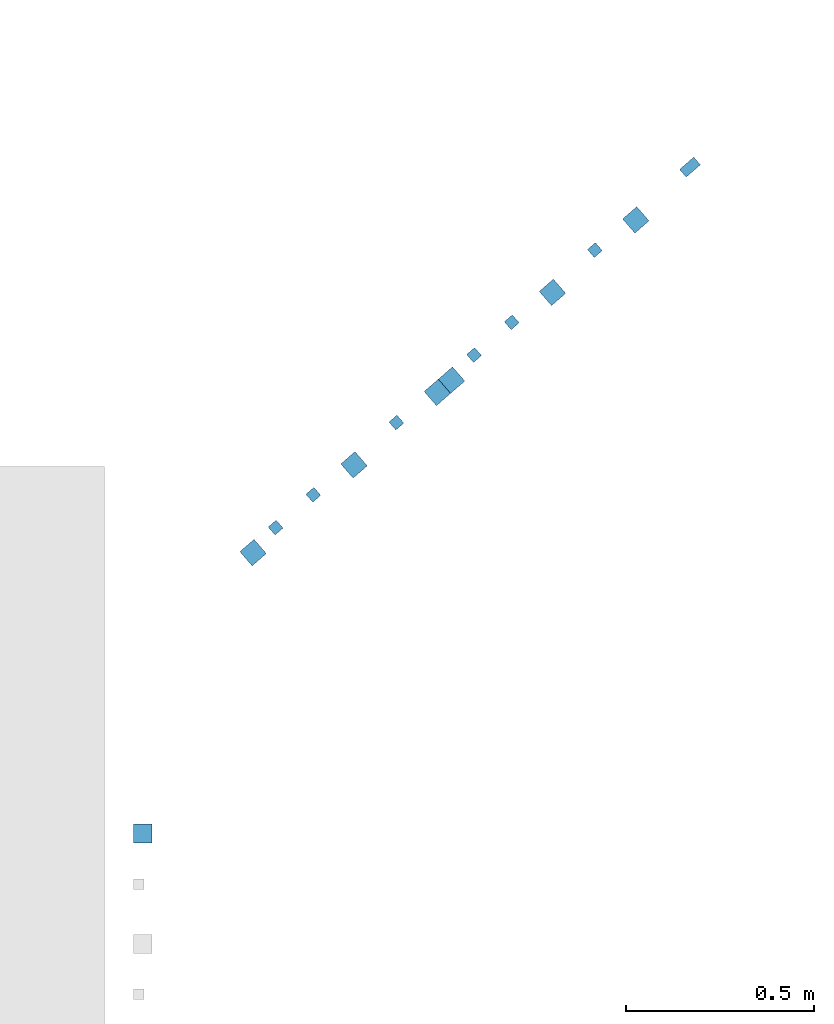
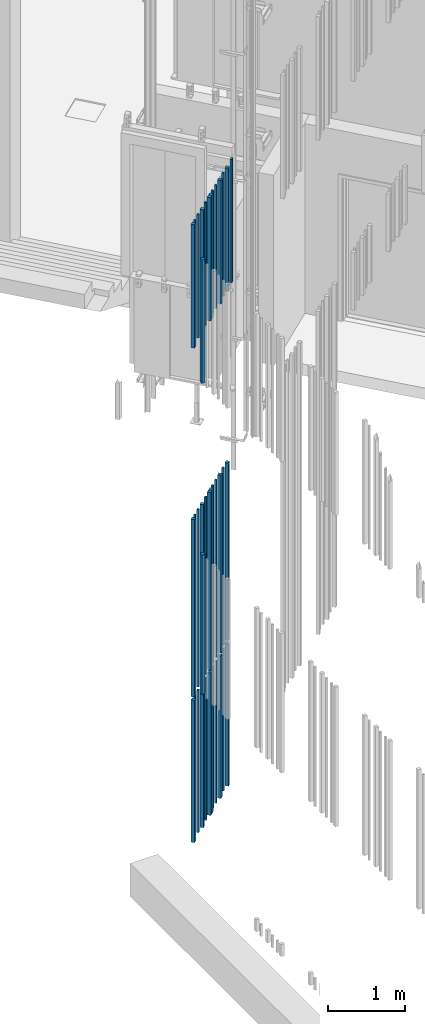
# One storey, part 28 of 124: 39 walls.
"""IFC2X3 building model written with IfcOpenShell, lengths in millimetres."""

from ifc_helpers import new_model, entity, si_unit, converted_unit, derived_unit, money_unit, direction, frame, origin_with_axes, place, context, subcontext, project, spatial, faceted_brep, material, type_object, element, save


model = new_model("IFC2X3")

# Units and contexts
model_context = context("Model", 3, precision=1e-05, world=origin_with_axes(), true_north=direction((0.0, 1.0)))
body_context = subcontext(model_context, "Body", "Model", "MODEL_VIEW")
ifc_project = project(units=[si_unit("LENGTHUNIT", "METRE", prefix="MILLI"), si_unit("AREAUNIT", "SQUARE_METRE"), si_unit("VOLUMEUNIT", "CUBIC_METRE"), converted_unit("PLANEANGLEUNIT", "DEGREE", entity("IfcPlaneAngleMeasure", 0.0174532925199), si_unit("PLANEANGLEUNIT", "RADIAN"), dimensions=[0, 0, 0, 0, 0, 0, 0]), si_unit("SOLIDANGLEUNIT", "STERADIAN"), money_unit("EUR"), converted_unit("TIMEUNIT", "Year", entity("IfcTimeMeasure", 31556926.0), si_unit("TIMEUNIT", "SECOND"), dimensions=[0, 0, 1, 0, 0, 0, 0]), si_unit("MASSUNIT", "GRAM", prefix="KILO"), si_unit("THERMODYNAMICTEMPERATUREUNIT", "DEGREE_CELSIUS"), si_unit("LUMINOUSINTENSITYUNIT", "LUMEN"), si_unit("ENERGYUNIT", "JOULE", prefix="MEGA"), derived_unit("THERMALCONDUCTANCEUNIT", [(si_unit("POWERUNIT", "WATT"), 1), (si_unit("LENGTHUNIT", "METRE"), -1), (si_unit("THERMODYNAMICTEMPERATUREUNIT", "KELVIN"), -1)]), derived_unit("SPECIFICHEATCAPACITYUNIT", [(si_unit("ENERGYUNIT", "JOULE"), 1), (si_unit("MASSUNIT", "GRAM", prefix="KILO"), -1), (si_unit("THERMODYNAMICTEMPERATUREUNIT", "KELVIN"), -1)]), derived_unit("MASSDENSITYUNIT", [(si_unit("MASSUNIT", "GRAM", prefix="KILO"), 1), (si_unit("VOLUMEUNIT", "CUBIC_METRE"), -1)])], contexts=[model_context])

# Site, building, storey
site_placement = place(None, origin_with_axes())
site = spatial("IfcSite", under=ifc_project, at=site_placement, Name="Site", CompositionType="ELEMENT")
building_placement = place(site_placement, origin_with_axes())
building = spatial("IfcBuilding", under=site, at=building_placement, Name="Building", CompositionType="ELEMENT")
storey_placement = place(building_placement, frame((0.0, 0.0, -1615.0), z_axis=(0.0, 0.0, 1.0), x_axis=(1.0, 0.0, 0.0)))
storey = spatial("IfcBuildingStorey", under=building, at=storey_placement, Name="0  korrus", CompositionType="ELEMENT", Elevation=-1615.0)

# Walls
ifc_material = material(Name="Site specified")
wall_type = type_object("IfcWallType", Name="Puitfassaadi ribistik", PredefinedType="NOTDEFINED")
wall_1_placement = place(storey_placement, frame((141015.401014, 67228.0097241, 4015.0), z_axis=(0.0, 0.0, 1.0), x_axis=(-0.754709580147, -0.656059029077, 0.0)))
element("IfcWall", 1, at=wall_1_placement, inside=storey, type_object=wall_type, material=ifc_material, Name="Site specified", context=body_context, shape_type="Brep", body=[
    faceted_brep([(14.0, 14.0, 2806.0), (14.0, 14.0, 0.0), (-14.0, 14.0, 0.0), (-14.0, 14.0, 2806.0), (14.0, -14.0, 2806.0), (14.0, -14.0, 0.0), (-14.0, -14.0, 0.0), (-14.0, -14.0, 2806.0)], [[[0, 1, 2, 3]], [[4, 5, 1, 0]], [[2, 1, 5, 6]], [[3, 2, 6, 7]], [[4, 0, 3, 7]], [[7, 6, 5, 4]]]),
])
for number, where, z_axis, x_axis, name in (
    (2, (141124.505336, 67308.2775216, 4015.0), (0.0, 0.0, 1.0), (-0.754709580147, -0.656059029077, 0.0), "Site specified"),
    (3, (140902.620721, 67115.3961685, 4015.0), (0.0, 0.0, 1.0), (-0.754709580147, -0.656059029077, 0.0), "Site specified"),
):
    element("IfcWall", number, at=place(storey_placement, frame(where, z_axis=z_axis, x_axis=x_axis)), inside=storey, type_object=wall_type, material=ifc_material, Name=name, context=body_context, shape_type="Brep", body=[
        faceted_brep([(25.0, 25.0, 2806.0), (25.0, 25.0, 0.0), (-25.0, 25.0, 0.0), (-25.0, 25.0, 2806.0), (25.0, -25.0, 2806.0), (25.0, -25.0, 0.0), (-25.0, -25.0, 0.0), (-25.0, -25.0, 2806.0)], [[[0, 1, 2, 3]], [[4, 5, 1, 0]], [[2, 1, 5, 6]], [[3, 2, 6, 7]], [[4, 0, 3, 7]], [[7, 6, 5, 4]]]),
    ])
wall_2_placement = place(storey_placement, frame((141015.401014, 67228.0097241, 9530.0), z_axis=(0.0, 0.0, 1.0), x_axis=(-0.754709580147, -0.656059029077, 0.0)))
element("IfcWall", 4, at=wall_2_placement, inside=storey, type_object=wall_type, material=ifc_material, Name="Site specified", context=body_context, shape_type="Brep", body=[
    faceted_brep([(14.0, 14.0, 1950.0), (14.0, 14.0, 0.0), (-14.0, 14.0, 0.0), (-14.0, 14.0, 1950.0), (14.0, -14.0, 1950.0), (14.0, -14.0, 0.0), (-14.0, -14.0, 0.0), (-14.0, -14.0, 1950.0)], [[[0, 1, 2, 3]], [[4, 5, 1, 0]], [[2, 1, 5, 6]], [[3, 2, 6, 7]], [[4, 0, 3, 7]], [[7, 6, 5, 4]]]),
])
wall_3_placement = place(storey_placement, frame((140693.894755, 66948.5285973, 4015.0), z_axis=(0.0, 0.0, 1.0), x_axis=(-0.754709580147, -0.656059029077, 0.0)))
element("IfcWall", 5, at=wall_3_placement, inside=storey, type_object=wall_type, material=ifc_material, Name="Site specified", context=body_context, shape_type="Brep", body=[
    faceted_brep([(14.0, 14.0, 2806.0), (14.0, 14.0, 0.0), (-14.0, 14.0, 0.0), (-14.0, 14.0, 2806.0), (14.0, -14.0, 2806.0), (14.0, -14.0, 0.0), (-14.0, -14.0, 0.0), (-14.0, -14.0, 2806.0)], [[[0, 1, 2, 3]], [[4, 5, 1, 0]], [[2, 1, 5, 6]], [[3, 2, 6, 7]], [[4, 0, 3, 7]], [[7, 6, 5, 4]]]),
])
wall_4_placement = place(storey_placement, frame((141124.505336, 67308.2775216, 9530.0), z_axis=(0.0, 0.0, 1.0), x_axis=(-0.754709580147, -0.656059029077, 0.0)))
element("IfcWall", 6, at=wall_4_placement, inside=storey, type_object=wall_type, material=ifc_material, Name="Site specified", context=body_context, shape_type="Brep", body=[
    faceted_brep([(25.0, 25.0, 1950.0), (25.0, 25.0, 0.0), (-25.0, 25.0, 0.0), (-25.0, 25.0, 1950.0), (25.0, -25.0, 1950.0), (25.0, -25.0, 0.0), (-25.0, -25.0, 0.0), (-25.0, -25.0, 1950.0)], [[[0, 1, 2, 3]], [[4, 5, 1, 0]], [[2, 1, 5, 6]], [[3, 2, 6, 7]], [[4, 0, 3, 7]], [[7, 6, 5, 4]]]),
])
wall_5_placement = place(storey_placement, frame((140633.939859, 66881.8354583, 4015.0), z_axis=(0.0, 0.0, 1.0), x_axis=(-0.754709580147, -0.656059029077, 0.0)))
element("IfcWall", 7, at=wall_5_placement, inside=storey, type_object=wall_type, material=ifc_material, Name="Site specified", context=body_context, shape_type="Brep", body=[
    faceted_brep([(25.0, 25.0, 2806.0), (25.0, 25.0, 0.0), (-25.0, 25.0, 0.0), (-25.0, 25.0, 2806.0), (25.0, -25.0, 2806.0), (25.0, -25.0, 0.0), (-25.0, -25.0, 0.0), (-25.0, -25.0, 2806.0)], [[[0, 1, 2, 3]], [[4, 5, 1, 0]], [[2, 1, 5, 6]], [[3, 2, 6, 7]], [[4, 0, 3, 7]], [[7, 6, 5, 4]]]),
])
wall_6_placement = place(storey_placement, frame((140794.271129, 67035.7844476, 4015.0), z_axis=(0.0, 0.0, 1.0), x_axis=(-0.754709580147, -0.656059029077, 0.0)))
element("IfcWall", 8, at=wall_6_placement, inside=storey, type_object=wall_type, material=ifc_material, Name="Site specified", context=body_context, shape_type="Brep", body=[
    faceted_brep([(14.0, 14.0, 2806.0), (14.0, 14.0, 0.0), (-14.0, 14.0, 0.0), (-14.0, 14.0, 2806.0), (14.0, -14.0, 2806.0), (14.0, -14.0, 0.0), (-14.0, -14.0, 0.0), (-14.0, -14.0, 2806.0)], [[[0, 1, 2, 3]], [[4, 5, 1, 0]], [[2, 1, 5, 6]], [[3, 2, 6, 7]], [[4, 0, 3, 7]], [[7, 6, 5, 4]]]),
])
wall_7_placement = place(storey_placement, frame((140487.104313, 66768.7684085, 9530.0), z_axis=(0.0, 0.0, 1.0), x_axis=(-0.754709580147, -0.656059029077, 0.0)))
element("IfcWall", 9, at=wall_7_placement, inside=storey, type_object=wall_type, material=ifc_material, Name="Site specified", context=body_context, shape_type="Brep", body=[
    faceted_brep([(14.0, 14.0, 1950.0), (14.0, 14.0, 0.0), (-14.0, 14.0, 0.0), (-14.0, 14.0, 1950.0), (14.0, -14.0, 1950.0), (14.0, -14.0, 0.0), (-14.0, -14.0, 0.0), (-14.0, -14.0, 1950.0)], [[[0, 1, 2, 3]], [[4, 5, 1, 0]], [[2, 1, 5, 6]], [[3, 2, 6, 7]], [[4, 0, 3, 7]], [[7, 6, 5, 4]]]),
])
for number, where, z_axis, x_axis, name in (
    (10, (140105.643158, 66422.5941427, 1715.0), (0.0, 0.0, 1.0), (-0.754709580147, -0.656059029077, 0.0), "Site specified"),
    (11, (140374.32402, 66656.1548528, 1715.0), (0.0, 0.0, 1.0), (-0.754709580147, -0.656059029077, 0.0), "Site specified"),
):
    element("IfcWall", number, at=place(storey_placement, frame(where, z_axis=z_axis, x_axis=x_axis)), inside=storey, type_object=wall_type, material=ifc_material, Name=name, context=body_context, shape_type="Brep", body=[
        faceted_brep([(25.0, 25.0, 2250.0), (25.0, 25.0, 0.0), (-25.0, 25.0, 0.0), (-25.0, 25.0, 2250.0), (25.0, -25.0, 2250.0), (25.0, -25.0, 0.0), (-25.0, -25.0, 0.0), (-25.0, -25.0, 2250.0)], [[[0, 1, 2, 3]], [[4, 5, 1, 0]], [[2, 1, 5, 6]], [[3, 2, 6, 7]], [[4, 0, 3, 7]], [[7, 6, 5, 4]]]),
    ])
for number, where, z_axis, x_axis, name in (
    (12, (140902.620721, 67115.3961685, 9530.0), (0.0, 0.0, 1.0), (-0.754709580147, -0.656059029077, 0.0), "Site specified"),
    (13, (140633.939859, 66881.8354583, 9530.0), (0.0, 0.0, 1.0), (-0.754709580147, -0.656059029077, 0.0), "Site specified"),
):
    element("IfcWall", number, at=place(storey_placement, frame(where, z_axis=z_axis, x_axis=x_axis)), inside=storey, type_object=wall_type, material=ifc_material, Name=name, context=body_context, shape_type="Brep", body=[
        faceted_brep([(25.0, 25.0, 1950.0), (25.0, 25.0, 0.0), (-25.0, 25.0, 0.0), (-25.0, 25.0, 1950.0), (25.0, -25.0, 1950.0), (25.0, -25.0, 0.0), (-25.0, -25.0, 0.0), (-25.0, -25.0, 1950.0)], [[[0, 1, 2, 3]], [[4, 5, 1, 0]], [[2, 1, 5, 6]], [[3, 2, 6, 7]], [[4, 0, 3, 7]], [[7, 6, 5, 4]]]),
    ])
for number, where, z_axis, x_axis, name in (
    (14, (140693.894755, 66948.5285973, 9530.0), (0.0, 0.0, 1.0), (-0.754709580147, -0.656059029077, 0.0), "Site specified"),
    (15, (140794.271129, 67035.7844476, 9530.0), (0.0, 0.0, 1.0), (-0.754709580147, -0.656059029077, 0.0), "Site specified"),
):
    element("IfcWall", number, at=place(storey_placement, frame(where, z_axis=z_axis, x_axis=x_axis)), inside=storey, type_object=wall_type, material=ifc_material, Name=name, context=body_context, shape_type="Brep", body=[
        faceted_brep([(14.0, 14.0, 1950.0), (14.0, 14.0, 0.0), (-14.0, 14.0, 0.0), (-14.0, 14.0, 1950.0), (14.0, -14.0, 1950.0), (14.0, -14.0, 0.0), (-14.0, -14.0, 0.0), (-14.0, -14.0, 1950.0)], [[[0, 1, 2, 3]], [[4, 5, 1, 0]], [[2, 1, 5, 6]], [[3, 2, 6, 7]], [[4, 0, 3, 7]], [[7, 6, 5, 4]]]),
    ])
for number, where, z_axis, x_axis, name in (
    (16, (140633.939859, 66881.8354583, 1715.0), (0.0, 0.0, 1.0), (-0.754709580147, -0.656059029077, 0.0), "Site specified"),
    (17, (140596.208635, 66849.0362059, 1715.0), (0.0, 0.0, 1.0), (-0.754709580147, -0.656059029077, 0.0), "Site specified"),
):
    element("IfcWall", number, at=place(storey_placement, frame(where, z_axis=z_axis, x_axis=x_axis)), inside=storey, type_object=wall_type, material=ifc_material, Name=name, context=body_context, shape_type="Brep", body=[
        faceted_brep([(25.0, 25.0, 2250.0), (25.0, 25.0, 0.0), (-25.0, 25.0, 0.0), (-25.0, 25.0, 2250.0), (25.0, -25.0, 2250.0), (25.0, -25.0, 0.0), (-25.0, -25.0, 0.0), (-25.0, -25.0, 2250.0)], [[[0, 1, 2, 3]], [[4, 5, 1, 0]], [[2, 1, 5, 6]], [[3, 2, 6, 7]], [[4, 0, 3, 7]], [[7, 6, 5, 4]]]),
    ])
for number, where, z_axis, x_axis, name in (
    (18, (140487.104313, 66768.7684085, 1715.0), (0.0, 0.0, 1.0), (-0.754709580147, -0.656059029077, 0.0), "Site specified"),
    (19, (140265.974428, 66576.5431319, 1715.0), (0.0, 0.0, 1.0), (-0.754709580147, -0.656059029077, 0.0), "Site specified"),
    (20, (140165.598054, 66489.2872816, 1715.0), (0.0, 0.0, 1.0), (-0.754709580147, -0.656059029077, 0.0), "Site specified"),
    (21, (141015.401014, 67228.0097241, 1715.0), (0.0, 0.0, 1.0), (-0.754709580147, -0.656059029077, 0.0), "Site specified"),
):
    element("IfcWall", number, at=place(storey_placement, frame(where, z_axis=z_axis, x_axis=x_axis)), inside=storey, type_object=wall_type, material=ifc_material, Name=name, context=body_context, shape_type="Brep", body=[
        faceted_brep([(14.0, 14.0, 2250.0), (14.0, 14.0, 0.0), (-14.0, 14.0, 0.0), (-14.0, 14.0, 2250.0), (14.0, -14.0, 2250.0), (14.0, -14.0, 0.0), (-14.0, -14.0, 0.0), (-14.0, -14.0, 2250.0)], [[[0, 1, 2, 3]], [[4, 5, 1, 0]], [[2, 1, 5, 6]], [[3, 2, 6, 7]], [[4, 0, 3, 7]], [[7, 6, 5, 4]]]),
    ])
wall_8_placement = place(storey_placement, frame((141124.505336, 67308.2775216, 1715.0), z_axis=(0.0, 0.0, 1.0), x_axis=(-0.754709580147, -0.656059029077, 0.0)))
element("IfcWall", 22, at=wall_8_placement, inside=storey, type_object=wall_type, material=ifc_material, Name="Site specified", context=body_context, shape_type="Brep", body=[
    faceted_brep([(25.0, 25.0, 2250.0), (25.0, 25.0, 0.0), (-25.0, 25.0, 0.0), (-25.0, 25.0, 2250.0), (25.0, -25.0, 2250.0), (25.0, -25.0, 0.0), (-25.0, -25.0, 0.0), (-25.0, -25.0, 2250.0)], [[[0, 1, 2, 3]], [[4, 5, 1, 0]], [[2, 1, 5, 6]], [[3, 2, 6, 7]], [[4, 0, 3, 7]], [[7, 6, 5, 4]]]),
])
wall_9_placement = place(storey_placement, frame((140794.271129, 67035.7844476, 1715.0), z_axis=(0.0, 0.0, 1.0), x_axis=(-0.754709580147, -0.656059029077, 0.0)))
element("IfcWall", 23, at=wall_9_placement, inside=storey, type_object=wall_type, material=ifc_material, Name="Site specified", context=body_context, shape_type="Brep", body=[
    faceted_brep([(14.0, 14.0, 2250.0), (14.0, 14.0, 0.0), (-14.0, 14.0, 0.0), (-14.0, 14.0, 2250.0), (14.0, -14.0, 2250.0), (14.0, -14.0, 0.0), (-14.0, -14.0, 0.0), (-14.0, -14.0, 2250.0)], [[[0, 1, 2, 3]], [[4, 5, 1, 0]], [[2, 1, 5, 6]], [[3, 2, 6, 7]], [[4, 0, 3, 7]], [[7, 6, 5, 4]]]),
])
wall_10_placement = place(storey_placement, frame((140902.620721, 67115.3961685, 1715.0), z_axis=(0.0, 0.0, 1.0), x_axis=(-0.754709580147, -0.656059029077, 0.0)))
element("IfcWall", 24, at=wall_10_placement, inside=storey, type_object=wall_type, material=ifc_material, Name="Site specified", context=body_context, shape_type="Brep", body=[
    faceted_brep([(25.0, 25.0, 2250.0), (25.0, 25.0, 0.0), (-25.0, 25.0, 0.0), (-25.0, 25.0, 2250.0), (25.0, -25.0, 2250.0), (25.0, -25.0, 0.0), (-25.0, -25.0, 0.0), (-25.0, -25.0, 2250.0)], [[[0, 1, 2, 3]], [[4, 5, 1, 0]], [[2, 1, 5, 6]], [[3, 2, 6, 7]], [[4, 0, 3, 7]], [[7, 6, 5, 4]]]),
])
wall_11_placement = place(storey_placement, frame((140693.894755, 66948.5285973, 1715.0), z_axis=(0.0, 0.0, 1.0), x_axis=(-0.754709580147, -0.656059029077, 0.0)))
element("IfcWall", 25, at=wall_11_placement, inside=storey, type_object=wall_type, material=ifc_material, Name="Site specified", context=body_context, shape_type="Brep", body=[
    faceted_brep([(14.0, 14.0, 2250.0), (14.0, 14.0, 0.0), (-14.0, 14.0, 0.0), (-14.0, 14.0, 2250.0), (14.0, -14.0, 2250.0), (14.0, -14.0, 0.0), (-14.0, -14.0, 0.0), (-14.0, -14.0, 2250.0)], [[[0, 1, 2, 3]], [[4, 5, 1, 0]], [[2, 1, 5, 6]], [[3, 2, 6, 7]], [[4, 0, 3, 7]], [[7, 6, 5, 4]]]),
])
wall_12_placement = place(storey_placement, frame((140374.32402, 66656.1548528, 4015.0), z_axis=(0.0, 0.0, 1.0), x_axis=(-0.754709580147, -0.656059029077, 0.0)))
element("IfcWall", 26, at=wall_12_placement, inside=storey, type_object=wall_type, material=ifc_material, Name="Site specified", context=body_context, shape_type="Brep", body=[
    faceted_brep([(25.0, 25.0, 2806.0), (25.0, 25.0, 0.0), (-25.0, 25.0, 0.0), (-25.0, 25.0, 2806.0), (25.0, -25.0, 2806.0), (25.0, -25.0, 0.0), (-25.0, -25.0, 0.0), (-25.0, -25.0, 2806.0)], [[[0, 1, 2, 3]], [[4, 5, 1, 0]], [[2, 1, 5, 6]], [[3, 2, 6, 7]], [[4, 0, 3, 7]], [[7, 6, 5, 4]]]),
])
wall_13_placement = place(storey_placement, frame((141261.126345, 67457.5156518, 9530.0), z_axis=(0.0, 0.0, 1.0), x_axis=(-0.754709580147, -0.656059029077, 0.0)))
element("IfcWall", 27, at=wall_13_placement, inside=storey, type_object=wall_type, material=ifc_material, Name="Site specified", context=body_context, shape_type="Brep", body=[
    faceted_brep([(-25.0, 25.0, 0.0), (-25.0, -1.99999977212, 0.0), (-25.0, -2.0000000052, 1950.0), (-25.0, 25.0, 1950.0), (25.0, 25.0, 0.0), (25.0, -1.99999977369, 0.0), (25.0, -2.00000000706, 1950.0), (25.0, 25.0, 1950.0)], [[[0, 1, 2, 3]], [[4, 5, 1, 0]], [[6, 2, 1, 5]], [[3, 2, 6, 7]], [[3, 7, 4, 0]], [[6, 5, 4, 7]]]),
])
for number, where, z_axis, x_axis, name in (
    (28, (140265.974428, 66576.5431319, 9530.0), (0.0, 0.0, 1.0), (-0.754709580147, -0.656059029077, 0.0), "Site specified"),
    (29, (140165.598054, 66489.2872816, 9530.0), (0.0, 0.0, 1.0), (-0.754709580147, -0.656059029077, 0.0), "Site specified"),
):
    element("IfcWall", number, at=place(storey_placement, frame(where, z_axis=z_axis, x_axis=x_axis)), inside=storey, type_object=wall_type, material=ifc_material, Name=name, context=body_context, shape_type="Brep", body=[
        faceted_brep([(14.0, 14.0, 1950.0), (14.0, 14.0, 0.0), (-14.0, 14.0, 0.0), (-14.0, 14.0, 1950.0), (14.0, -14.0, 1950.0), (14.0, -14.0, 0.0), (-14.0, -14.0, 0.0), (-14.0, -14.0, 1950.0)], [[[0, 1, 2, 3]], [[4, 5, 1, 0]], [[2, 1, 5, 6]], [[3, 2, 6, 7]], [[4, 0, 3, 7]], [[7, 6, 5, 4]]]),
    ])
for number, where, z_axis, x_axis, name in (
    (30, (140374.32402, 66656.1548528, 9530.0), (0.0, 0.0, 1.0), (-0.754709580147, -0.656059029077, 0.0), "Site specified"),
    (31, (140105.643158, 66422.5941427, 9530.0), (0.0, 0.0, 1.0), (-0.754709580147, -0.656059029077, 0.0), "Site specified"),
):
    element("IfcWall", number, at=place(storey_placement, frame(where, z_axis=z_axis, x_axis=x_axis)), inside=storey, type_object=wall_type, material=ifc_material, Name=name, context=body_context, shape_type="Brep", body=[
        faceted_brep([(25.0, 25.0, 1950.0), (25.0, 25.0, 0.0), (-25.0, 25.0, 0.0), (-25.0, 25.0, 1950.0), (25.0, -25.0, 1950.0), (25.0, -25.0, 0.0), (-25.0, -25.0, 0.0), (-25.0, -25.0, 1950.0)], [[[0, 1, 2, 3]], [[4, 5, 1, 0]], [[2, 1, 5, 6]], [[3, 2, 6, 7]], [[4, 0, 3, 7]], [[7, 6, 5, 4]]]),
    ])
wall_14_placement = place(storey_placement, frame((140596.208635, 66849.0362059, 4015.0), z_axis=(0.0, 0.0, 1.0), x_axis=(-0.754709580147, -0.656059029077, 0.0)))
element("IfcWall", 32, at=wall_14_placement, inside=storey, type_object=wall_type, material=ifc_material, Name="Site specified", context=body_context, shape_type="Brep", body=[
    faceted_brep([(25.0, 25.0, 2806.0), (25.0, 25.0, 0.0), (-25.0, 25.0, 0.0), (-25.0, 25.0, 2806.0), (25.0, -25.0, 2806.0), (25.0, -25.0, 0.0), (-25.0, -25.0, 0.0), (-25.0, -25.0, 2806.0)], [[[0, 1, 2, 3]], [[4, 5, 1, 0]], [[2, 1, 5, 6]], [[3, 2, 6, 7]], [[4, 0, 3, 7]], [[7, 6, 5, 4]]]),
])
for number, where, z_axis, x_axis, name in (
    (33, (140165.598054, 66489.2872816, 4015.0), (0.0, 0.0, 1.0), (-0.754709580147, -0.656059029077, 0.0), "Site specified"),
    (34, (140487.104313, 66768.7684085, 4015.0), (0.0, 0.0, 1.0), (-0.754709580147, -0.656059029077, 0.0), "Site specified"),
):
    element("IfcWall", number, at=place(storey_placement, frame(where, z_axis=z_axis, x_axis=x_axis)), inside=storey, type_object=wall_type, material=ifc_material, Name=name, context=body_context, shape_type="Brep", body=[
        faceted_brep([(14.0, 14.0, 2806.0), (14.0, 14.0, 0.0), (-14.0, 14.0, 0.0), (-14.0, 14.0, 2806.0), (14.0, -14.0, 2806.0), (14.0, -14.0, 0.0), (-14.0, -14.0, 0.0), (-14.0, -14.0, 2806.0)], [[[0, 1, 2, 3]], [[4, 5, 1, 0]], [[2, 1, 5, 6]], [[3, 2, 6, 7]], [[4, 0, 3, 7]], [[7, 6, 5, 4]]]),
    ])
wall_15_placement = place(storey_placement, frame((140596.208635, 66849.0362059, 9530.0), z_axis=(0.0, 0.0, 1.0), x_axis=(-0.754709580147, -0.656059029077, 0.0)))
element("IfcWall", 35, at=wall_15_placement, inside=storey, type_object=wall_type, material=ifc_material, Name="Site specified", context=body_context, shape_type="Brep", body=[
    faceted_brep([(25.0, 25.0, 1950.0), (25.0, 25.0, 0.0), (-25.0, 25.0, 0.0), (-25.0, 25.0, 1950.0), (25.0, -25.0, 1950.0), (25.0, -25.0, 0.0), (-25.0, -25.0, 0.0), (-25.0, -25.0, 1950.0)], [[[0, 1, 2, 3]], [[4, 5, 1, 0]], [[2, 1, 5, 6]], [[3, 2, 6, 7]], [[4, 0, 3, 7]], [[7, 6, 5, 4]]]),
])
wall_16_placement = place(storey_placement, frame((140105.643158, 66422.5941427, 4015.0), z_axis=(0.0, 0.0, 1.0), x_axis=(-0.754709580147, -0.656059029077, 0.0)))
element("IfcWall", 36, at=wall_16_placement, inside=storey, type_object=wall_type, material=ifc_material, Name="Site specified", context=body_context, shape_type="Brep", body=[
    faceted_brep([(25.0, 25.0, 2806.0), (25.0, 25.0, 0.0), (-25.0, 25.0, 0.0), (-25.0, 25.0, 2806.0), (25.0, -25.0, 2806.0), (25.0, -25.0, 0.0), (-25.0, -25.0, 0.0), (-25.0, -25.0, 2806.0)], [[[0, 1, 2, 3]], [[4, 5, 1, 0]], [[2, 1, 5, 6]], [[3, 2, 6, 7]], [[4, 0, 3, 7]], [[7, 6, 5, 4]]]),
])
wall_17_placement = place(storey_placement, frame((140265.974428, 66576.5431319, 4015.0), z_axis=(0.0, 0.0, 1.0), x_axis=(-0.754709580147, -0.656059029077, 0.0)))
element("IfcWall", 37, at=wall_17_placement, inside=storey, type_object=wall_type, material=ifc_material, Name="Site specified", context=body_context, shape_type="Brep", body=[
    faceted_brep([(14.0, 14.0, 2806.0), (14.0, 14.0, 0.0), (-14.0, 14.0, 0.0), (-14.0, 14.0, 2806.0), (14.0, -14.0, 2806.0), (14.0, -14.0, 0.0), (-14.0, -14.0, 0.0), (-14.0, -14.0, 2806.0)], [[[0, 1, 2, 3]], [[4, 5, 1, 0]], [[2, 1, 5, 6]], [[3, 2, 6, 7]], [[4, 0, 3, 7]], [[7, 6, 5, 4]]]),
])
wall_18_placement = place(storey_placement, frame((139811.999995, 65674.9818039, 4615.0), z_axis=(0.0, 0.0, 1.0), x_axis=(5.16795808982e-08, -1.0, 0.0)))
element("IfcWall", 38, at=wall_18_placement, inside=storey, type_object=wall_type, material=ifc_material, Name="Site specified", context=body_context, shape_type="Brep", body=[
    faceted_brep([(25.0, 25.0, 2206.0), (25.0, 25.0, 0.0), (-25.0, 25.0, 0.0), (-25.0, 25.0, 2206.0), (25.0, -25.0, 2206.0), (25.0, -25.0, 0.0), (-25.0, -25.0, 0.0), (-25.0, -25.0, 2206.0)], [[[0, 1, 2, 3]], [[4, 5, 1, 0]], [[2, 1, 5, 6]], [[3, 2, 6, 7]], [[4, 0, 3, 7]], [[7, 6, 5, 4]]]),
])
wall_19_placement = place(storey_placement, frame((139811.999995, 65674.9818039, 9530.0), z_axis=(0.0, 0.0, 1.0), x_axis=(5.16795808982e-08, -1.0, 0.0)))
element("IfcWall", 39, at=wall_19_placement, inside=storey, type_object=wall_type, material=ifc_material, Name="Site specified", context=body_context, shape_type="Brep", body=[
    faceted_brep([(25.0, 25.0, 1950.0), (25.0, 25.0, 0.0), (-25.0, 25.0, 0.0), (-25.0, 25.0, 1950.0), (25.0, -25.0, 1950.0), (25.0, -25.0, 0.0), (-25.0, -25.0, 0.0), (-25.0, -25.0, 1950.0)], [[[0, 1, 2, 3]], [[4, 5, 1, 0]], [[2, 1, 5, 6]], [[3, 2, 6, 7]], [[4, 0, 3, 7]], [[7, 6, 5, 4]]]),
])

save(model, "model.ifc")
